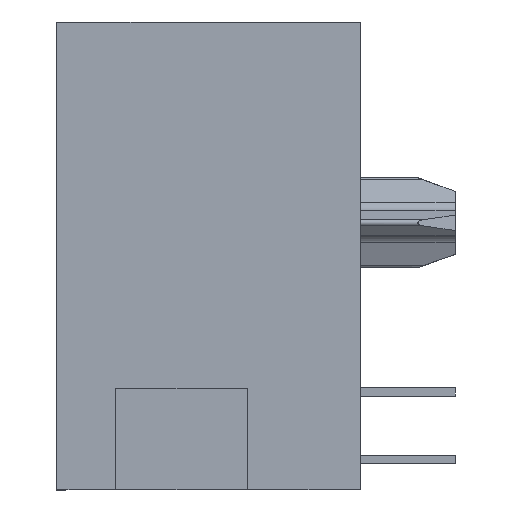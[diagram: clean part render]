
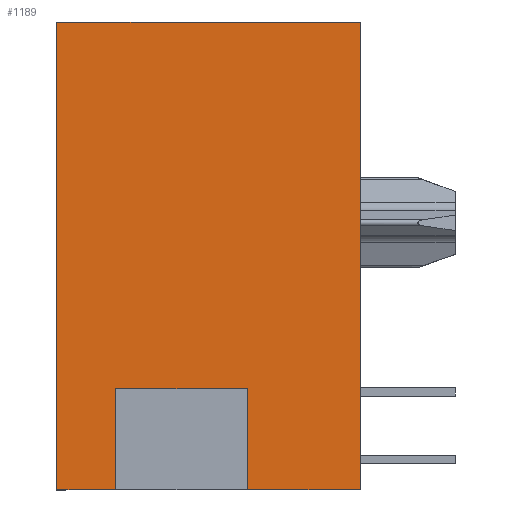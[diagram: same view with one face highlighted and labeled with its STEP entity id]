
A CAD part, left-side view. The second image highlights one B-rep face of the part: STEP entity #1189.
In plain terms, the highlighted planar face has unit normal (-1, 0, 0).
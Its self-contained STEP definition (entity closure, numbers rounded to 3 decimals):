
#1148 = EDGE_CURVE ( 'NONE', #1149, #1150, #4181, .T. ) ;
#1149 = VERTEX_POINT ( 'NONE', #4177 ) ;
#1150 = VERTEX_POINT ( 'NONE', #4176 ) ;
#1168 = VERTEX_POINT ( 'NONE', #4211 ) ;
#1170 = EDGE_CURVE ( 'NONE', #1168, #1171, #4210, .T. ) ;
#1171 = VERTEX_POINT ( 'NONE', #4206 ) ;
#1189 = ADVANCED_FACE ( 'NONE', ( #4240 ), #4239, .F. ) ;
#1190 = EDGE_LOOP ( 'NONE', ( #1191, #1253, #1254, #1256, #1257, #1260, #1263, #1239 ) ) ;
#1191 = ORIENTED_EDGE ( 'NONE', *, *, #1252, .T. ) ;
#1213 = VERTEX_POINT ( 'NONE', #4260 ) ;
#1215 = EDGE_CURVE ( 'NONE', #1213, #1216, #4259, .T. ) ;
#1216 = VERTEX_POINT ( 'NONE', #4255 ) ;
#1239 = ORIENTED_EDGE ( 'NONE', *, *, #1215, .F. ) ;
#1252 = EDGE_CURVE ( 'NONE', #1213, #1171, #4383, .T. ) ;
#1253 = ORIENTED_EDGE ( 'NONE', *, *, #1170, .F. ) ;
#1254 = ORIENTED_EDGE ( 'NONE', *, *, #1255, .T. ) ;
#1255 = EDGE_CURVE ( 'NONE', #1168, #1150, #4379, .T. ) ;
#1256 = ORIENTED_EDGE ( 'NONE', *, *, #1148, .F. ) ;
#1257 = ORIENTED_EDGE ( 'NONE', *, *, #1258, .F. ) ;
#1258 = EDGE_CURVE ( 'NONE', #1259, #1149, #4375, .T. ) ;
#1259 = VERTEX_POINT ( 'NONE', #4426 ) ;
#1260 = ORIENTED_EDGE ( 'NONE', *, *, #1261, .F. ) ;
#1261 = EDGE_CURVE ( 'NONE', #1262, #1259, #4425, .T. ) ;
#1262 = VERTEX_POINT ( 'NONE', #4421 ) ;
#1263 = ORIENTED_EDGE ( 'NONE', *, *, #1264, .F. ) ;
#1264 = EDGE_CURVE ( 'NONE', #1216, #1262, #4420, .T. ) ;
#4176 = CARTESIAN_POINT ( 'NONE',  ( -7.556, 11.4, -17.574 ) ) ;
#4177 = CARTESIAN_POINT ( 'NONE',  ( -7.556, 9.195, -17.574 ) ) ;
#4178 = DIRECTION ( 'NONE',  ( 0., 1., 0. ) ) ;
#4179 = VECTOR ( 'NONE', #4178, 1000. ) ;
#4180 = CARTESIAN_POINT ( 'NONE',  ( -7.556, 7.036, -17.574 ) ) ;
#4181 = LINE ( 'NONE', #4180, #4179 ) ;
#4206 = CARTESIAN_POINT ( 'NONE',  ( -7.556, 0., 0. ) ) ;
#4207 = DIRECTION ( 'NONE',  ( 0., -1., 0. ) ) ;
#4208 = VECTOR ( 'NONE', #4207, 1000. ) ;
#4209 = CARTESIAN_POINT ( 'NONE',  ( -7.556, 0.381, 0. ) ) ;
#4210 = LINE ( 'NONE', #4209, #4208 ) ;
#4211 = CARTESIAN_POINT ( 'NONE',  ( -7.556, 11.4, 0. ) ) ;
#4235 = DIRECTION ( 'NONE',  ( 0., 0., -1. ) ) ;
#4236 = DIRECTION ( 'NONE',  ( 1., 0., 0. ) ) ;
#4237 = CARTESIAN_POINT ( 'NONE',  ( -7.556, 7.036, 3. ) ) ;
#4238 = AXIS2_PLACEMENT_3D ( 'NONE', #4237, #4236, #4235 ) ;
#4239 = PLANE ( 'NONE',  #4238 ) ;
#4240 = FACE_OUTER_BOUND ( 'NONE', #1190, .T. ) ;
#4255 = CARTESIAN_POINT ( 'NONE',  ( -7.556, 4.242, -17.574 ) ) ;
#4256 = DIRECTION ( 'NONE',  ( 0., 1., 0. ) ) ;
#4257 = VECTOR ( 'NONE', #4256, 1000. ) ;
#4258 = CARTESIAN_POINT ( 'NONE',  ( -7.556, 7.036, -17.574 ) ) ;
#4259 = LINE ( 'NONE', #4258, #4257 ) ;
#4260 = CARTESIAN_POINT ( 'NONE',  ( -7.556, 0., -17.574 ) ) ;
#4372 = DIRECTION ( 'NONE',  ( 0., 0., -1. ) ) ;
#4373 = VECTOR ( 'NONE', #4372, 1000. ) ;
#4374 = CARTESIAN_POINT ( 'NONE',  ( -7.556, 9.195, 3. ) ) ;
#4375 = LINE ( 'NONE', #4374, #4373 ) ;
#4376 = DIRECTION ( 'NONE',  ( 0., 0., -1. ) ) ;
#4377 = VECTOR ( 'NONE', #4376, 1000. ) ;
#4378 = CARTESIAN_POINT ( 'NONE',  ( -7.556, 11.4, 0. ) ) ;
#4379 = LINE ( 'NONE', #4378, #4377 ) ;
#4380 = DIRECTION ( 'NONE',  ( 0., 0., 1. ) ) ;
#4381 = VECTOR ( 'NONE', #4380, 1000. ) ;
#4382 = CARTESIAN_POINT ( 'NONE',  ( -7.556, 0., 0. ) ) ;
#4383 = LINE ( 'NONE', #4382, #4381 ) ;
#4417 = DIRECTION ( 'NONE',  ( 0., 0., 1. ) ) ;
#4418 = VECTOR ( 'NONE', #4417, 1000. ) ;
#4419 = CARTESIAN_POINT ( 'NONE',  ( -7.556, 4.242, 3. ) ) ;
#4420 = LINE ( 'NONE', #4419, #4418 ) ;
#4421 = CARTESIAN_POINT ( 'NONE',  ( -7.556, 4.242, -13.764 ) ) ;
#4422 = DIRECTION ( 'NONE',  ( 0., 1., 0. ) ) ;
#4423 = VECTOR ( 'NONE', #4422, 1000. ) ;
#4424 = CARTESIAN_POINT ( 'NONE',  ( -7.556, 7.036, -13.764 ) ) ;
#4425 = LINE ( 'NONE', #4424, #4423 ) ;
#4426 = CARTESIAN_POINT ( 'NONE',  ( -7.556, 9.195, -13.764 ) ) ;
